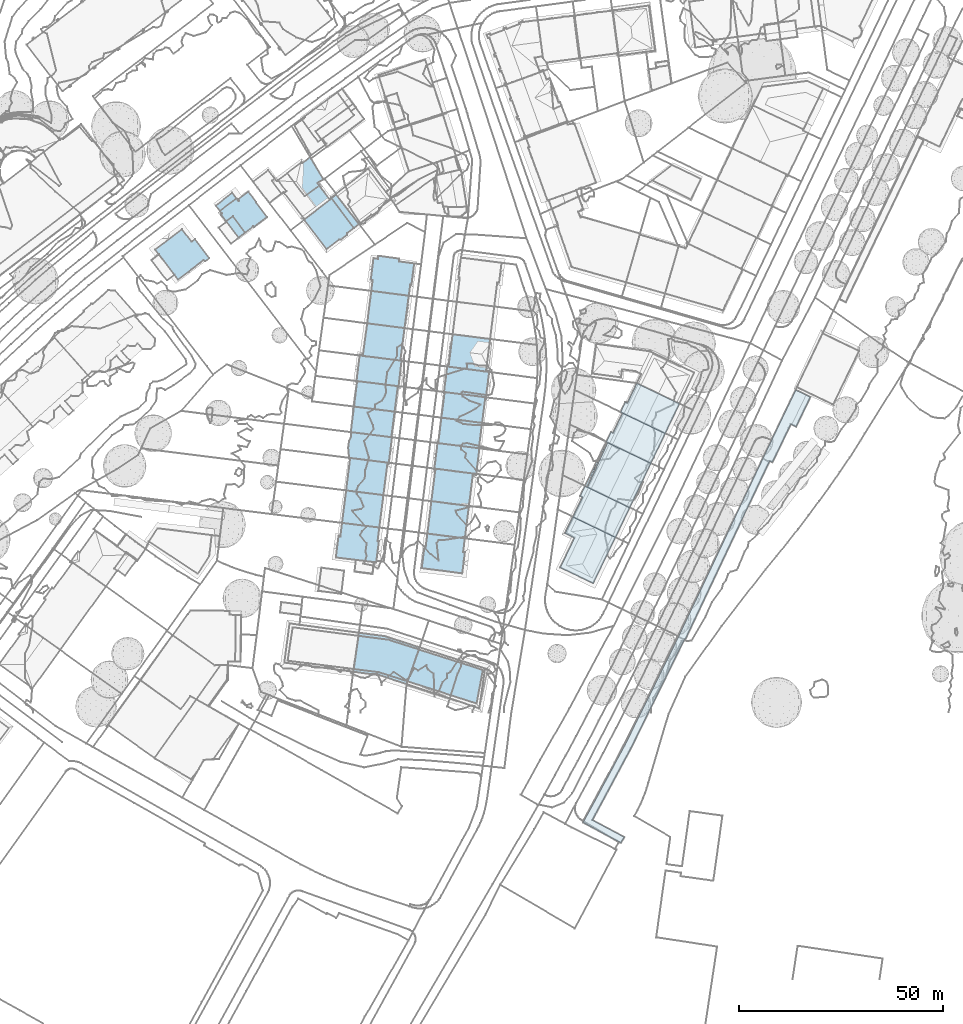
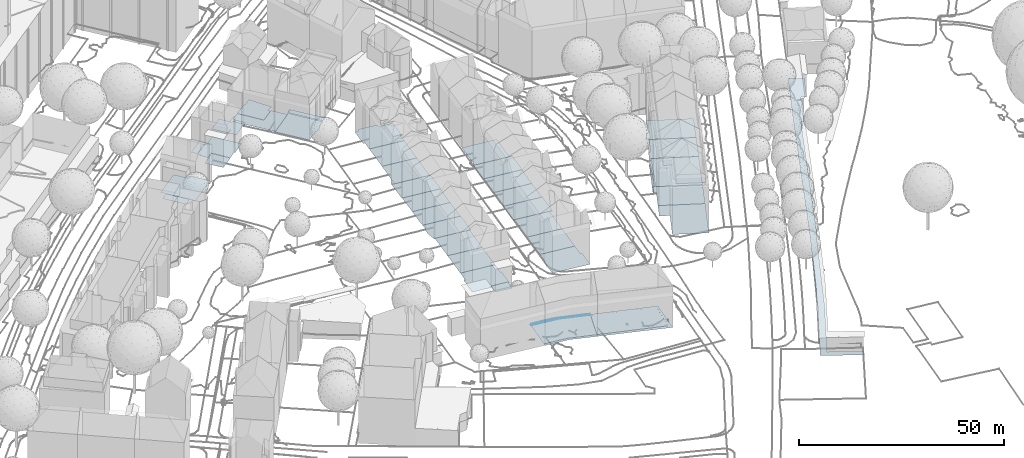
# Not in any storey, part 8 of 494: 32 footings.
"""IFC2X3 model written with IfcOpenShell, lengths in metres."""

from ifc_helpers import new_model, si_unit, frame, origin_with_axes, place, context, subcontext, project, faceted_brep, element, save


model = new_model("IFC2X3")

# Units and contexts
model_context = context("Model", 3, precision=1e-05, world=origin_with_axes())
body_context = subcontext(model_context, "Body", "Model", "MODEL_VIEW")
ifc_project = project(units=[si_unit("AREAUNIT", "SQUARE_METRE"), si_unit("LENGTHUNIT", "METRE")], contexts=[model_context])

# Footings
footing_1_placement = place(None, frame((495.5237320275, 54.2186160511, 497.0566), z_axis=(0.0, 0.0, 1.0), x_axis=(1.0, 0.0, 0.0)))
element("IfcFooting", 1, at=footing_1_placement, Name="Floor 0", PredefinedType="STRIP_FOOTING", context=body_context, shape_type="Brep", body=[
    faceted_brep([(0.5759999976, -0.2784000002, 0.508), (0.5370000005, -0.2588, 0.473), (2.2589999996, 3.4111000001, 0.44), (2.3440000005, 4.8662, 0.0001), (0.0, 0.0, 0.0), (5.2080000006, 10.8144000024, 0.0001), (5.5590000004, 10.6464000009, 0.309)], [[[0, 1, 2]], [[3, 1, 4]], [[2, 5, 6]], [[3, 5, 1]], [[5, 2, 1]]]),
])
footing_2_placement = place(None, frame((495.5237320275, 54.2186160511, 497.0566), z_axis=(0.0, 0.0, 1.0), x_axis=(1.0, 0.0, 0.0)))
element("IfcFooting", 2, at=footing_2_placement, Name="Floor 1", PredefinedType="STRIP_FOOTING", context=body_context, shape_type="Brep", body=[
    faceted_brep([(6.6919999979, 10.1025000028, 1.9099), (10.9839999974, 8.0459000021, 1.9099), (2.868999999, 4.6152000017, 1.9099), (15.4690000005, 5.8974000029, 1.9099), (10.2449999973, -4.9483000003, 1.9098), (5.748999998, -2.7763999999, 1.9099), (6.0159999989, 10.4266999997, 1.9099), (5.5590000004, 10.6464000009, 1.9099), (2.8189999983, 4.638600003, 1.9099), (16.1620000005, 5.5644000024, 1.9099), (2.2569999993, 3.3349000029, 1.9099), (1.5599999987, 1.8789000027, 1.9099), (0.5759999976, -0.2784000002, 1.9099), (10.9659999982, -5.2958999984, 1.9098)], [[[0, 1, 2]], [[1, 3, 4]], [[2, 1, 5]], [[6, 2, 7]], [[8, 7, 2]], [[0, 2, 6]], [[9, 4, 3]], [[5, 1, 4]], [[10, 2, 5]], [[5, 11, 10]], [[12, 11, 5]], [[9, 13, 4]]]),
])
footing_3_placement = place(None, frame((504.2517320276, 72.3416160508, 498.9665), z_axis=(0.0, 0.0, 1.0), x_axis=(1.0, 0.0, 0.0)))
element("IfcFooting", 3, at=footing_3_placement, Name="Floor 0", PredefinedType="STRIP_FOOTING", context=body_context, shape_type="Brep", body=[
    faceted_brep([(10.9389999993, -5.2372999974, 0.0), (5.7769999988, -2.7655999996, 0.0), (12.0669999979, -2.878899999, 0.0), (2.2540000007, 3.447300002, 0.0), (13.3420000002, -0.2138999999, 0.0), (9.2909999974, 4.5293000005, 0.0), (14.4289999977, 2.0596000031, 0.0), (3.3110000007, 5.6563000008, 0.0), (5.0020000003, 6.5898000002, 0.0), (4.3259999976, 6.9150000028, 0.0), (1.4849999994, -0.7108999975, 0.0), (1.6769999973, 2.2412, 0.0), (0.8079999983, -0.3866999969, 0.0), (0.0, 0.0, 0.0), (1.1909999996, 2.4736000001, 0.0), (4.0260000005, 7.0596000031, 0.0), (3.9849999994, 7.0654000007, 0.0)], [[[0, 1, 2]], [[2, 3, 4]], [[2, 1, 3]], [[4, 5, 6]], [[3, 5, 4]], [[7, 8, 5]], [[7, 9, 8]], [[1, 10, 11]], [[3, 1, 11]], [[12, 13, 11]], [[14, 11, 13]], [[5, 3, 7]], [[15, 9, 16]], [[9, 7, 16]], [[11, 10, 12]]]),
])
footing_4_placement = place(None, frame((489.4687320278, 34.2352160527, 498.9664), z_axis=(0.0, 0.0, 1.0), x_axis=(1.0, 0.0, 0.0)))
element("IfcFooting", 4, at=footing_4_placement, Name="Floor 0", PredefinedType="STRIP_FOOTING", context=body_context, shape_type="Brep", body=[
    faceted_brep([(8.311999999, 9.9100999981, 0.0), (12.7919999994, 7.7509000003, 0.0), (3.5139999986, 7.2840999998, 0.0), (3.3530000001, 12.3016999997, 0.0001), (13.5309999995, 7.3944999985, 0.0), (8.0909999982, -3.8643000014, 0.0), (0.0, 0.0, 0.0), (1.1679999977, 8.4237999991, 0.0001), (3.1030000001, 12.4228000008, 0.0001), (3.2719999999, 12.3407999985, 0.0001)], [[[0, 1, 2]], [[3, 0, 2]], [[4, 5, 1]], [[5, 6, 2]], [[7, 8, 9]], [[3, 7, 9]], [[7, 3, 2]], [[1, 5, 2]]]),
])
footing_5_placement = place(None, frame((500.7317320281, 65.0330160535, 498.9665), z_axis=(0.0, 0.0, 1.0), x_axis=(1.0, 0.0, 0.0)))
element("IfcFooting", 5, at=footing_5_placement, Name="Floor 0", PredefinedType="STRIP_FOOTING", context=body_context, shape_type="Brep", body=[
    faceted_brep([(10.2609999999, -4.9180000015, 0.0), (13.7829999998, 2.3944999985, 0.0), (10.9539999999, -5.25, 0.0), (9.2969999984, 4.5429999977, 0.0), (5.7969999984, -2.7783000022, 0.0), (1.6799999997, 2.1992000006, 0.0), (14.4579999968, 2.0713, 0.0), (3.2749999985, 5.5321999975, 0.0), (4.5700000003, 6.8057000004, 0.0), (0.8079999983, -0.3877000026, 0.0), (0.0, 0.0, 0.0), (1.175999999, 2.441399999, 0.0), (4.0119999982, 7.0722999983, 0.0)], [[[0, 1, 2]], [[3, 4, 5]], [[4, 3, 0]], [[2, 1, 6]], [[0, 3, 1]], [[7, 8, 3]], [[9, 10, 5]], [[11, 5, 10]], [[5, 7, 3]], [[12, 8, 7]], [[9, 5, 4]]]),
])
footing_6_placement = place(None, frame((492.5717320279, 46.6580160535, 498.9665), z_axis=(0.0, 0.0, 1.0), x_axis=(1.0, 0.0, 0.0)))
element("IfcFooting", 6, at=footing_6_placement, Name="Floor 0", PredefinedType="STRIP_FOOTING", context=body_context, shape_type="Brep", body=[
    faceted_brep([(8.7190000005, 4.7753999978, 0.0), (5.2339999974, -2.5243999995, -0.0001), (2.3319999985, 4.811499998, 0.0), (9.6889999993, -4.6719000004, -0.0001), (13.1979999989, 2.6122999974, -0.0001), (13.9179999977, 2.2646999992, -0.0001), (10.4279999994, -5.0283000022, -0.0001), (3.9690000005, 7.0692999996, 0.0), (0.2469999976, -0.1191000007, 0.0), (0.9690000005, 1.998999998, 0.0), (0.1689999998, -0.0820000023, 0.0), (0.0, 0.0, 0.0), (2.9519999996, 7.5605999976, 0.0), (1.7639999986, 5.0946999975, 0.0)], [[[0, 1, 2]], [[3, 4, 5]], [[5, 6, 3]], [[4, 3, 1]], [[0, 4, 1]], [[2, 7, 0]], [[8, 9, 1]], [[2, 1, 9]], [[10, 11, 9]], [[7, 2, 12]], [[12, 2, 13]], [[9, 8, 10]]]),
])
footing_7_placement = place(None, frame((211.8297320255, 101.9383160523, 526.7541), z_axis=(0.0, 0.0, 1.0), x_axis=(1.0, 0.0, 0.0)))
element("IfcFooting", 7, at=footing_7_placement, Name="Floor 3", PredefinedType="STRIP_FOOTING", context=body_context, shape_type="Brep", body=[
    faceted_brep([(335.3610000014, -24.1719000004, -27.9426), (338.9510000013, -25.9023999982, -27.9427), (334.2990000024, -32.5879000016, -27.9427), (335.4580000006, -33.1464999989, -27.9427), (334.1680000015, -32.5234999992, -27.9427), (328.9720000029, -41.5625, -27.9427), (333.6909999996, -33.5137000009, -27.9427), (332.5610000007, -35.8555000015, -27.9427), (327.2400000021, -41.0078000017, -27.9427), (329.6530000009, -41.8887000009, -27.9427), (308.313000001, -85.2412, -27.9427), (308.1209999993, -85.2069999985, -27.9427), (306.6070000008, -84.692400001, -27.9427), (324.995000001, -45.7617000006, -27.9427), (328.8660000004, -41.7870999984, -27.9427), (294.876000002, -112.1572000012, -27.9427), (294.9710000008, -108.2001999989, -27.9427), (294.4140000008, -113.0175999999, -27.9427), (292.4979999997, -135.1669999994, -27.9427), (285.512000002, -129.5995999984, -27.9427), (293.3480000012, -133.7763999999, -27.9427), (283.2259999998, -130.1728999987, -27.9427), (306.6060000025, -84.6942999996, -27.9427), (289.6669999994, -118.191399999, -27.9427), (286.1980000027, -128.3213, -27.9427), (289.1790000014, -119.0839999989, -27.9427), (293.3880000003, -111.3975000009, -27.9427), (285.9140000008, -128.8506000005, -27.9427), (287.0720000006, -123.0791000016, -27.9427), (286.7400000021, -123.691399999, -27.9427)], [[[0, 1, 2]], [[3, 2, 1]], [[2, 4, 0]], [[5, 4, 6]], [[5, 6, 7]], [[5, 8, 0]], [[4, 5, 0]], [[5, 7, 9]], [[10, 11, 12]], [[10, 12, 13]], [[14, 13, 5]], [[8, 5, 13]], [[10, 13, 14]], [[15, 16, 11]], [[16, 15, 17]], [[18, 19, 20]], [[21, 19, 18]], [[11, 22, 12]], [[11, 16, 22]], [[23, 24, 25]], [[26, 24, 23]], [[26, 16, 17]], [[27, 28, 24]], [[19, 28, 27]], [[19, 29, 28]], [[21, 29, 19]], [[28, 25, 24]], [[26, 17, 24]]]),
])
footing_8_placement = place(None, frame((389.3167320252, 109.6180160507, 499.0156), z_axis=(0.0, 0.0, 1.0), x_axis=(1.0, 0.0, 0.0)))
element("IfcFooting", 8, at=footing_8_placement, Name="Floor 0", PredefinedType="STRIP_FOOTING", context=body_context, shape_type="Brep", body=[
    faceted_brep([(6.5310000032, -4.7753999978, -0.032), (5.6060000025, -3.5771999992, -0.032), (9.2690000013, -2.673899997, -0.032), (9.8150000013, 4.5029000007, -0.032), (10.6590000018, -1.6083999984, -0.032), (13.0810000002, -0.3320999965, -0.032), (12.8000000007, 0.0342000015, -0.032), (14.1560000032, 0.4814000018, -0.032), (10.6339999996, 5.1308000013, -0.032), (3.2840000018, 4.3828000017, -0.032), (4.1740000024, 5.0644000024, -0.032), (1.6440000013, 1.5986000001, -0.032), (0.9100000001, 2.5615000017, -0.032), (7.443, 7.5722000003, -0.032), (1.807, 1.3857000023, 0.0), (5.6060000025, -3.5771999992, 0.0), (0.0, 0.0, 0.0), (3.7730000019, -4.9833999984, 0.0)], [[[0, 1, 2]], [[2, 3, 4]], [[5, 6, 7]], [[4, 3, 6]], [[6, 8, 7]], [[9, 2, 1]], [[2, 9, 10]], [[11, 12, 9]], [[10, 3, 2]], [[8, 6, 3]], [[10, 13, 3]], [[1, 11, 9]], [[14, 15, 16]], [[17, 16, 15]]]),
])
footing_9_placement = place(None, frame((405.0787320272, 122.9930160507, 499.2066), z_axis=(0.0, 0.0, 1.0), x_axis=(1.0, 0.0, 0.0)))
element("IfcFooting", 9, at=footing_9_placement, Name="Floor 0", PredefinedType="STRIP_FOOTING", context=body_context, shape_type="Brep", body=[
    faceted_brep([(0.9959999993, -1.2978999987, -0.126), (5.0779999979, 1.7256000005, -0.126), (1.4620000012, -1.9042999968, -0.126), (5.563000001, 1.0937000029, -0.126), (1.5280000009, -1.9912, -0.126), (4.1849999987, -2.6318999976, -0.126), (2.5229999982, -3.8632999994, -0.126), (1.2509999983, -2.2060999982, -0.126), (7.1750000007, -6.6679999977, -0.126), (9.1609999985, -5.1269999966, -0.126), (9.3090000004, -5.3173999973, -0.126), (12.5799999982, -2.8007999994, -0.126), (9.8220000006, 0.754900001, -0.126), (5.6979999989, 1.1972000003, -0.126), (5.4679999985, 1.4980000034, -0.126), (7.9809999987, 3.4267000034, -0.126), (9.9129999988, 0.8252000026, -0.126), (5.0779999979, 1.7256000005, 0.0), (0.0, 0.0, 0.0), (4.0289999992, 3.0927000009, 0.0), (0.9959999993, -1.2978999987, 0.0), (4.1849999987, -2.6318999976, -0.206), (2.625, -3.9960999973, -0.206), (2.5229999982, -3.8632999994, -0.206), (7.1750000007, -6.6679999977, -0.206), (3.7120000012, -9.3544999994, -0.206), (0.7219999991, -5.4570999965, -0.206)], [[[0, 1, 2]], [[3, 4, 2]], [[2, 1, 3]], [[3, 5, 4]], [[6, 7, 4]], [[4, 5, 6]], [[8, 5, 9]], [[10, 9, 11]], [[5, 12, 9]], [[5, 3, 13]], [[14, 15, 13]], [[15, 12, 13]], [[15, 16, 12]], [[11, 9, 12]], [[12, 5, 13]], [[17, 18, 19]], [[18, 17, 20]], [[21, 22, 23]], [[21, 24, 22]], [[25, 26, 22]], [[22, 24, 25]]]),
])
footing_10_placement = place(None, frame((434.497732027, 36.682416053, 499.5704), z_axis=(0.0, 0.0, 1.0), x_axis=(1.0, 0.0, 0.0)))
element("IfcFooting", 10, at=footing_10_placement, Name="Floor 0", PredefinedType="STRIP_FOOTING", context=body_context, shape_type="Brep", body=[
    faceted_brep([(5.4829999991, 7.9668000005, 0.0001), (1.1019999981, 5.1532999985, 0.0001), (1.5179999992, 8.4609999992, 0.0001), (0.3359999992, 2.6660000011, 0.0), (4.7949999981, -0.5956999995, 0.0), (0.0, 0.0, 0.0), (0.6559999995, 5.2089999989, 0.0001), (10.2329999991, 4.0313000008, 0.0), (10.2470000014, 4.1396999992, 0.0), (10.5500000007, 3.9912, 0.0), (10.2080000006, 1.2989000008, 0.0), (9.8889999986, -1.2109000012, 0.0), (10.6510000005, 7.3222999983, 0.0), (9.3139999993, -1.1552000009, 0.454), (4.5639999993, -3.4218000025, 0.454), (4.9129999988, -0.6093000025, 0.454), (9.5789999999, -1.1737999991, 0.454), (8.9620000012, -3.9814000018, 0.454), (9.5769999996, -1.1884000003, 0.454)], [[[0, 1, 2]], [[3, 4, 5]], [[1, 4, 3]], [[3, 6, 1]], [[0, 7, 1]], [[0, 8, 7]], [[4, 1, 7]], [[9, 10, 7]], [[11, 4, 10]], [[7, 10, 4]], [[0, 12, 8]], [[13, 14, 15]], [[15, 16, 13]], [[13, 17, 14]], [[13, 16, 18]]]),
])
footing_11_placement = place(None, frame((437.0167320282, 53.1053160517, 499.5705), z_axis=(0.0, 0.0, 1.0), x_axis=(1.0, 0.0, 0.0)))
element("IfcFooting", 11, at=footing_11_placement, Name="Floor 0", PredefinedType="STRIP_FOOTING", context=body_context, shape_type="Brep", body=[
    faceted_brep([(0.0, 0.0, 0.0), (0.2280000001, 1.8125, 0.0), (1.7649999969, -0.2216999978, 0.0), (0.5899999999, 4.6933000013, 0.0), (4.0639999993, -0.5097999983, 0.0), (5.1639999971, 7.4354999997, 0.0), (9.6719999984, 3.0175999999, 0.0), (9.1429999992, -1.1475000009, 0.0), (9.1739999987, 6.9345000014, 0.0), (10.1229999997, 6.5644000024, 0.0), (0.743999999, 7.9882999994, 0.0), (1.8079999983, 7.8553999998, 0.0), (0.9769999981, 7.7666000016, 0.0), (0.7619999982, 7.7928999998, 0.0), (4.6549999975, 7.4990000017, 0.0), (10.4389999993, 6.5243999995, 0.0), (10.4709999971, 6.7723999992, 0.0)], [[[0, 1, 2]], [[1, 3, 4]], [[4, 2, 1]], [[5, 6, 3]], [[6, 7, 4]], [[6, 4, 3]], [[8, 9, 6]], [[10, 11, 12]], [[12, 13, 10]], [[14, 3, 11]], [[15, 9, 16]], [[14, 5, 3]], [[8, 6, 5]], [[16, 9, 8]], [[3, 12, 11]]]),
])
footing_12_placement = place(None, frame((439.5667320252, 79.9246160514, 499.5705), z_axis=(0.0, 0.0, 1.0), x_axis=(1.0, 0.0, 0.0)))
element("IfcFooting", 12, at=footing_12_placement, Name="Floor 0", PredefinedType="STRIP_FOOTING", context=body_context, shape_type="Brep", body=[
    faceted_brep([(10.3030000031, -1.2811999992, 0.0), (10.2280000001, -1.2714999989, 0.0), (10.6560000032, 1.7294999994, 0.0), (10.7440000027, 2.4794999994, 0.0), (0.375, 3.0947000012, 0.0), (9.5560000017, -1.1875, 0.0), (0.4790000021, 3.9570000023, 0.0), (6.074000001, 5.6016000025, 0.0), (11.0370000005, 4.9805000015, 0.0), (9.949000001, 5.1162, 0.0), (5.2080000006, -0.6464999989, 0.0), (0.5350000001, -0.0654000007, 0.0), (0.0, 0.0, 0.0), (0.7589999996, 6.2675999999, 0.0), (2.3210000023, 6.0713, 0.0)], [[[0, 1, 2]], [[3, 2, 4]], [[2, 1, 5]], [[3, 6, 7]], [[8, 3, 9]], [[9, 3, 7]], [[5, 10, 2]], [[11, 4, 10]], [[12, 4, 11]], [[4, 6, 3]], [[13, 14, 6]], [[14, 7, 6]], [[4, 2, 10]]]),
])
footing_13_placement = place(None, frame((440.3257320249, 86.1922160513, 499.5705), z_axis=(0.0, 0.0, 1.0), x_axis=(1.0, 0.0, 0.0)))
element("IfcFooting", 13, at=footing_13_placement, Name="Floor 0", PredefinedType="STRIP_FOOTING", context=body_context, shape_type="Brep", body=[
    faceted_brep([(0.0, 0.0, 0.0), (0.814000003, 0.1484000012, 0.0), (1.5620000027, -0.1963, 0.0), (0.8420000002, 0.3535000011, 0.0), (0.0300000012, 0.2432000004, 0.0), (5.3150000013, -0.6659999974, 0.0), (10.3030000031, -1.0713, 0.0), (10.2780000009, -1.2870999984, 0.0), (10.006000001, -1.0321999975, 0.0), (6.4160000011, 7.2919999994, 0.0), (1.8550000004, 7.876000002, 0.0), (11.0130000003, 6.7030999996, 0.0), (10.7250000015, 4.4932000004, 0.0)], [[[0, 1, 2]], [[3, 2, 1]], [[1, 0, 4]], [[2, 3, 5]], [[6, 7, 8]], [[7, 5, 8]], [[9, 5, 3]], [[10, 9, 3]], [[9, 11, 12]], [[12, 8, 9]], [[5, 9, 8]]]),
])
footing_14_placement = place(None, frame((442.1807320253, 94.0682160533, 499.5705), z_axis=(0.0, 0.0, 1.0), x_axis=(1.0, 0.0, 0.0)))
element("IfcFooting", 14, at=footing_14_placement, Name="Floor 0", PredefinedType="STRIP_FOOTING", context=body_context, shape_type="Brep", body=[
    faceted_brep([(4.5610000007, -0.5840000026, 0.0), (10.1900000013, 6.7645999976, 0.0), (9.1579999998, -1.1729000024, 0.0), (0.0, 0.0, 0.0), (0.8680000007, 6.8993999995, 0.0), (0.9990000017, 7.9422999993, 0.0), (5.6590000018, 7.3456999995, 0.0)], [[[0, 1, 2]], [[3, 4, 0]], [[5, 6, 4]], [[6, 1, 0]], [[0, 4, 6]]]),
])
footing_15_placement = place(None, frame((438.9377320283, 73.6600160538, 499.5705), z_axis=(0.0, 0.0, 1.0), x_axis=(1.0, 0.0, 0.0)))
element("IfcFooting", 15, at=footing_15_placement, Name="Floor 0", PredefinedType="STRIP_FOOTING", context=body_context, shape_type="Brep", body=[
    faceted_brep([(10.932, 4.9833999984, 0.0), (10.9189999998, 4.8680999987, 0.0), (10.856999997, 4.9930999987, 0.0), (10.9019999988, 4.7245999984, 0.0), (10.7329999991, 4.7460999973, 0.0), (10.1849999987, 5.0770999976, 0.0), (0.7529999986, 5.9969999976, 0.0), (1.1549999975, 6.2001999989, 0.0), (5.8369999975, 5.6180999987, 0.0), (0.6289999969, 6.2645999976, 0.0), (0.6030000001, 6.0155999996, 0.0), (10.5179999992, 3.0585999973, 0.0), (0.4659999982, 3.7118999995, 0.0), (10.2869999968, 1.2509000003, 0.0), (9.9670000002, -1.255900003, 0.0), (9.3189999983, -1.1739000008, 0.0), (4.9719999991, -0.6270000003, 0.0), (0.186999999, 1.4891999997, 0.0), (0.2919999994, -0.0381000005, 0.0), (0.0, 0.0, 0.0)], [[[0, 1, 2]], [[3, 4, 1]], [[1, 5, 2]], [[1, 4, 5]], [[6, 7, 8]], [[5, 4, 8]], [[9, 7, 6]], [[9, 6, 10]], [[4, 11, 8]], [[12, 11, 13]], [[13, 14, 15]], [[16, 17, 13]], [[13, 15, 16]], [[17, 16, 18]], [[17, 12, 13]], [[18, 19, 17]], [[11, 12, 6]], [[8, 11, 6]]]),
])
footing_16_placement = place(None, frame((438.2527320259, 67.3914160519, 499.5705), z_axis=(0.0, 0.0, 1.0), x_axis=(1.0, 0.0, 0.0)))
element("IfcFooting", 16, at=footing_16_placement, Name="Floor 0", PredefinedType="STRIP_FOOTING", context=body_context, shape_type="Brep", body=[
    faceted_brep([(10.6520000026, 5.0126999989, 0.0), (10.3590000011, 2.7109000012, 0.0), (10.0040000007, 5.0947000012, 0.0), (10.1220000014, 0.8544999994, 0.0), (5.6570000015, 5.6416000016, 0.0), (4.7919999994, -0.6024999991, 0.0), (0.4680000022, 4.5390999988, 0.0), (0.9770000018, 6.2305000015, 0.0), (0.6850000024, 6.2686000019, 0.0), (0.0410000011, 1.1455000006, 0.0), (10.0040000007, -1.2588, 0.0), (9.693, -1.2197000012, 0.0), (9.8859999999, -0.9921999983, 0.0), (10.0350000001, -1.0106999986, 0.0), (9.1400000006, -1.1493999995, 0.0), (0.0, 0.0, 0.0)], [[[0, 1, 2]], [[1, 3, 4]], [[4, 2, 1]], [[4, 5, 6]], [[7, 6, 8]], [[6, 7, 4]], [[5, 9, 6]], [[4, 3, 5]], [[10, 11, 12]], [[12, 13, 10]], [[12, 11, 14]], [[14, 5, 3]], [[15, 9, 5]], [[12, 14, 3]]]),
])
footing_17_placement = place(None, frame((443.0627320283, 104.7566160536, 499.5705), z_axis=(0.0, 0.0, 1.0), x_axis=(1.0, 0.0, 0.0)))
element("IfcFooting", 17, at=footing_17_placement, Name="Floor 0", PredefinedType="STRIP_FOOTING", context=body_context, shape_type="Brep", body=[
    faceted_brep([(0.3299999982, 2.6259999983, 0.0), (0.6629999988, 5.2744999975, 0.0), (1.743999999, 5.1367999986, 0.0), (6.9019999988, 4.4824999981, 0.0), (0.4549999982, -0.0566000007, 0.0), (0.0, 0.0, 0.0), (4.7769999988, -3.3427000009, 0.0), (0.4339999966, -0.2275000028, 0.0), (0.2919999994, -1.3553999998, 0.0), (0.1169999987, -2.746100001, 0.0), (1.8369999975, 5.8720999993, 0.0), (6.987999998, 5.1581999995, 0.0), (7.9679999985, 4.3456999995, 0.0), (10.2789999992, 1.178799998, 0.0), (10.6379999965, 4.0068999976, 0.0), (10.3859999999, 2.0244999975, 0.0), (9.498999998, 4.1523999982, 0.0), (9.6659999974, -1.1816000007, 0.0), (9.3079999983, -3.9238000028, 0.0), (9.9739999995, -1.2206999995, 0.0)], [[[0, 1, 2]], [[0, 2, 3]], [[4, 5, 0]], [[4, 3, 6]], [[7, 6, 8]], [[9, 8, 6]], [[4, 6, 7]], [[4, 0, 3]], [[10, 11, 2]], [[3, 12, 13]], [[3, 2, 11]], [[14, 15, 16]], [[12, 16, 15]], [[15, 13, 12]], [[6, 17, 18]], [[19, 17, 13]], [[13, 17, 3]], [[6, 3, 17]]]),
])
footing_18_placement = place(None, frame((437.5277320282, 63.6443160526, 499.5705), z_axis=(0.0, 0.0, 1.0), x_axis=(1.0, 0.0, 0.0)))
element("IfcFooting", 18, at=footing_18_placement, Name="Floor 0", PredefinedType="STRIP_FOOTING", context=body_context, shape_type="Brep", body=[
    faceted_brep([(0.1939999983, 1.5361999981, 0.0), (0.6849999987, 2.6347999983, 0.0), (5.5169999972, 3.1446000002, 0.0), (0.1030000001, 0.8194000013, 0.0), (0.0, 0.0, 0.0), (4.6529999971, -3.1035000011, 0.0), (4.1439999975, -3.0399999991, 0.0), (0.2329999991, -2.5507000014, 0.0), (0.7249999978, 3.7470999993, 0.0), (9.8649999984, 2.5976999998, 0.0), (10.5479999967, 1.0157000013, 0.0), (10.7289999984, 2.4882999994, 0.0), (10.4179999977, 2.5273999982, 0.0), (10.1589999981, -2.1484000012, 0.0), (9.9599999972, -3.7666000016, 0.0)], [[[0, 1, 2]], [[2, 3, 0]], [[4, 5, 6]], [[7, 4, 6]], [[4, 3, 5]], [[8, 2, 1]], [[9, 10, 2]], [[11, 10, 12]], [[10, 9, 12]], [[5, 13, 14]], [[13, 5, 10]], [[2, 10, 5]], [[5, 3, 2]]]),
])
footing_19_placement = place(None, frame((436.0157320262, 45.1434160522, 499.5705), z_axis=(0.0, 0.0, 1.0), x_axis=(1.0, 0.0, 0.0)))
element("IfcFooting", 19, at=footing_19_placement, Name="Floor 0", PredefinedType="STRIP_FOOTING", context=body_context, shape_type="Brep", body=[
    faceted_brep([(9.8909999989, 4.8260999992, 0.0), (5.0650000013, 7.4510999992, 0.0), (10.1440000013, 6.8143999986, 0.0), (9.5500000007, 2.1444999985, -0.0001), (0.3949999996, 3.1444999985, 0.0), (2.7659999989, 7.7402000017, 0.0), (0.7679999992, 6.1053999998, 0.0), (1.001000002, 7.9618999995, 0.0), (9.1330000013, -1.1387000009, -0.0001), (3.9649999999, -0.4941999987, 0.0), (0.0, 0.0, 0.0)], [[[0, 1, 2]], [[1, 3, 4]], [[5, 6, 7]], [[5, 1, 6]], [[4, 6, 1]], [[0, 3, 1]], [[8, 9, 3]], [[4, 9, 10]], [[4, 3, 9]]]),
])
footing_20_placement = place(None, frame((460.3767320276, 70.9432160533, 499.4055), z_axis=(0.0, 0.0, 1.0), x_axis=(1.0, 0.0, 0.0)))
element("IfcFooting", 20, at=footing_20_placement, Name="Floor 0", PredefinedType="STRIP_FOOTING", context=body_context, shape_type="Brep", body=[
    faceted_brep([(5.6710000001, 5.6532999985, 0.0), (10.112999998, 5.0868999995, 0.0), (10.7339999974, 4.7557999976, 0.0), (10.9140000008, 4.9842999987, 0.0), (1.2829999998, 6.2137999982, 0.0), (0.7630000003, 6.0273000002, 0.0), (0.7709999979, 6.2782999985, 0.0), (0.6499999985, 6.0419999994, 0.0), (0.6359999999, 6.2967999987, 0.0), (0.6050000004, 6.0478000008, 0.0), (10.9010000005, 4.8817999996, 0.0), (10.8829999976, 4.7362999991, 0.0), (0.2740000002, 2.1669999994, 0.0), (9.9679999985, -1.2831999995, 0.0), (9.3729999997, -1.2061000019, 0.0), (10.2229999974, 0.7294999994, 0.0), (4.932, -0.6358000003, 0.0), (0.0, 0.0, 0.0)], [[[0, 1, 2]], [[3, 2, 1]], [[4, 0, 5]], [[4, 5, 6]], [[6, 7, 8]], [[9, 8, 7]], [[6, 5, 7]], [[2, 3, 10]], [[2, 10, 11]], [[12, 0, 2]], [[13, 14, 15]], [[15, 16, 2]], [[16, 15, 14]], [[12, 5, 0]], [[17, 12, 16]], [[16, 12, 2]]]),
])
footing_21_placement = place(None, frame((456.9307320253, 42.5213160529, 499.4054), z_axis=(0.0, 0.0, 1.0), x_axis=(1.0, 0.0, 0.0)))
element("IfcFooting", 21, at=footing_21_placement, Name="Floor 0", PredefinedType="STRIP_FOOTING", context=body_context, shape_type="Brep", body=[
    faceted_brep([(0.3390000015, 2.7157999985, 0.0), (8.7890000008, -1.1162, 0.0), (0.0, 0.0, 0.0), (10.1860000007, 6.7793000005, 0.0), (9.1860000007, -1.1669999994, 0.0), (0.9930000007, 7.9501999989, 0.0001), (5.9710000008, 7.316399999, 0.0), (8.0789999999, 7.0487999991, 0.0)], [[[0, 1, 2]], [[1, 3, 4]], [[5, 6, 0]], [[3, 1, 7]], [[6, 7, 1]], [[0, 6, 1]]]),
])
footing_22_placement = place(None, frame((461.8007320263, 83.4783160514, 499.4055), z_axis=(0.0, 0.0, 1.0), x_axis=(1.0, 0.0, 0.0)))
element("IfcFooting", 22, at=footing_22_placement, Name="Floor 0", PredefinedType="STRIP_FOOTING", context=body_context, shape_type="Brep", body=[
    faceted_brep([(5.9039999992, 7.3311000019, 0.0), (1.0560000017, 5.8027999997, 0.0), (4.6160000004, 7.4951000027, 0.0), (4.9730000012, -0.6435000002, 0.0), (0.4750000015, 1.2061000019, 0.0), (1.3229999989, 7.9131000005, 0.0), (0.2290000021, 0.2237000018, 0.0), (0.0, 0.0, 0.0), (0.0320000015, 0.2481000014, 0.0), (9.5230000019, -0.9912, 0.0), (10.504999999, 6.7481000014, 0.0), (10.3080000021, -1.0936999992, 0.0), (10.2780000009, -1.3319999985, 0.0), (9.0280000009, -1.1699000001, 0.0), (0.3489999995, 0.2071000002, 0.0), (0.7069999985, -0.0918000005, 0.0)], [[[0, 1, 2]], [[3, 4, 0]], [[2, 1, 5]], [[6, 7, 8]], [[4, 1, 0]], [[9, 0, 10]], [[11, 12, 9]], [[0, 9, 3]], [[13, 9, 12]], [[13, 3, 9]], [[7, 6, 14]], [[15, 7, 14]], [[4, 15, 14]], [[15, 4, 3]]]),
])
footing_23_placement = place(None, frame((457.923732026, 50.4715160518, 499.4055), z_axis=(0.0, 0.0, 1.0), x_axis=(1.0, 0.0, 0.0)))
element("IfcFooting", 23, at=footing_23_placement, Name="Floor 0", PredefinedType="STRIP_FOOTING", context=body_context, shape_type="Brep", body=[
    faceted_brep([(7.0859999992, -0.9013999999, -0.0001), (9.3390000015, -0.0108000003, -0.0001), (9.2679999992, -0.5762000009, -0.0001), (9.193, -1.1699000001, -0.0001), (4.9780000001, -0.6338, -0.0001), (10.0240000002, 5.4248000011, 0.0), (5.9140000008, 7.3291000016, 0.0), (0.0, 0.0, 0.0), (0.9609999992, 7.7012000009, 0.0), (10.0940000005, 5.9834000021, 0.0), (9.3990000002, 6.8828000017, 0.0), (6.3570000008, 7.2723999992, 0.0), (0.6830000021, 7.7362999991, 0.0), (0.7149999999, 7.9941000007, 0.0), (1.9719999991, 7.8330000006, 0.0), (10.1630000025, 6.5322000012, 0.0), (10.9869999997, 6.6797000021, 0.0), (10.9560000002, 6.4316000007, 0.0), (9.5350000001, 6.8662, 0.0)], [[[0, 1, 2]], [[0, 2, 3]], [[4, 1, 0]], [[5, 4, 6]], [[4, 7, 8]], [[1, 4, 5]], [[9, 5, 10]], [[4, 8, 6]], [[6, 11, 5]], [[8, 12, 13]], [[10, 5, 11]], [[8, 14, 6]], [[14, 8, 13]], [[15, 16, 17]], [[18, 16, 15]], [[9, 18, 15]], [[18, 9, 10]]]),
])
footing_24_placement = place(None, frame((461.0127320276, 77.240016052, 499.4055), z_axis=(0.0, 0.0, 1.0), x_axis=(1.0, 0.0, 0.0)))
element("IfcFooting", 24, at=footing_24_placement, Name="Floor 0", PredefinedType="STRIP_FOOTING", context=body_context, shape_type="Brep", body=[
    faceted_brep([(5.0350000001, -0.6435000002, 0.0), (10.4829999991, 0.3027999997, 0.0), (9.4769999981, -1.2098999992, 0.0), (10.2780000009, -1.3125, 0.0), (0.3979999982, 3.1231000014, 0.0), (10.6799999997, 1.8603999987, 0.0), (10.7980000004, 2.7872000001, 0.0), (9.8159999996, 5.0683999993, 0.0), (11.0659999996, 4.9052999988, 0.0), (5.7609999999, 5.5947999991, 0.0), (0.1959999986, 1.5372000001, 0.0), (0.1349999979, -0.0185000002, 0.0), (0.6469999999, -0.0830000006, 0.0), (0.0, 0.0, 0.0), (0.6829999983, 5.3984999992, 0.0), (1.4949999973, 6.1464999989, 0.0), (0.7879999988, 6.2382999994, 0.0)], [[[0, 1, 2]], [[1, 3, 2]], [[1, 4, 5]], [[5, 4, 6]], [[7, 8, 6]], [[7, 6, 9]], [[10, 1, 0]], [[11, 10, 12]], [[1, 10, 4]], [[11, 13, 10]], [[9, 14, 15]], [[16, 15, 14]], [[9, 6, 14]], [[14, 6, 4]], [[0, 12, 10]]]),
])
footing_25_placement = place(None, frame((458.6387320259, 58.4656160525, 499.4055), z_axis=(0.0, 0.0, 1.0), x_axis=(1.0, 0.0, 0.0)))
element("IfcFooting", 25, at=footing_25_placement, Name="Floor 0", PredefinedType="STRIP_FOOTING", context=body_context, shape_type="Brep", body=[
    faceted_brep([(0.7910000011, 6.253899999, 0.0), (1.5600000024, 6.1572999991, 0.0), (0.568, 4.4882999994, 0.0), (5.9360000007, 5.5986999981, 0.0), (0.4039999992, 3.1884999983, 0.0), (1.2569999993, -0.1611000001, 0.0), (0.0, 0.0, 0.0), (0.1970000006, 1.5606000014, 0.0), (5.199000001, -0.6649999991, 0.0), (10.6610000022, 1.7969000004, 0.0), (10.8269999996, 3.1270000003, 0.0), (10.4959999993, 0.4765999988, 0.0), (5.6420000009, -0.7217000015, 0.0), (8.6840000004, -1.1112999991, 0.0), (8.8200000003, -1.1279000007, 0.0), (10.2719999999, -1.3134999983, 0.0), (11.0549999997, 4.9483000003, 0.0)], [[[0, 1, 2]], [[2, 1, 3]], [[3, 4, 2]], [[5, 6, 7]], [[5, 7, 8]], [[4, 8, 7]], [[3, 9, 4]], [[9, 8, 4]], [[3, 10, 9]], [[9, 11, 12]], [[9, 12, 8]], [[12, 11, 13]], [[14, 11, 15]], [[13, 11, 14]], [[3, 16, 10]]]),
])
footing_26_placement = place(None, frame((459.429732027, 64.7195160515, 499.4055), z_axis=(0.0, 0.0, 1.0), x_axis=(1.0, 0.0, 0.0)))
element("IfcFooting", 26, at=footing_26_placement, Name="Floor 0", PredefinedType="STRIP_FOOTING", context=body_context, shape_type="Brep", body=[
    faceted_brep([(5.1449999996, -0.6552000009, 0.0), (0.7659999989, -0.0965999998, 0.0), (0.6579999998, 3.9317000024, 0.0), (0.0, 0.0, 0.0), (0.1900000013, 0.2285000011, 0.0), (10.2659999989, -1.3055999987, 0.0), (10.1579999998, -1.0399999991, 0.0), (10.307, -1.0585999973, 0.0), (0.0309999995, 0.2481000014, 0.0), (5.8790000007, 5.5879000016, 0.0), (0.9470000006, 6.2237000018, 0.0), (10.7259999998, 3.4453000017, 0.0), (10.3200000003, 5.0175999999, 0.0), (10.9149999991, 4.9405000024, 0.0)], [[[0, 1, 2]], [[1, 3, 4]], [[5, 0, 6]], [[6, 7, 5]], [[8, 4, 3]], [[6, 0, 2]], [[9, 2, 10]], [[6, 9, 11]], [[12, 13, 11]], [[11, 9, 12]], [[9, 6, 2]], [[1, 4, 2]]]),
])
footing_27_placement = place(None, frame((455.554732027, 34.0604160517, 499.4054), z_axis=(0.0, 0.0, 1.0), x_axis=(1.0, 0.0, 0.0)))
element("IfcFooting", 27, at=footing_27_placement, Name="Floor 0", PredefinedType="STRIP_FOOTING", context=body_context, shape_type="Brep", body=[
    faceted_brep([(4.9609999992, -0.6425999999, 0.0), (10.2609999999, 1.3885999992, 0.0), (10.245000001, 1.258700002, 0.0), (9.9230000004, -1.2841999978, 0.0), (10.1429999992, 3.9598999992, 0.0), (10.3079999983, 1.7509000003, 0.0), (10.5799999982, 3.9042000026, 0.0), (10.1829999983, 7.3427000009, 0.0), (10.561999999, 7.2928999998, 0.0), (10.3429999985, 5.5527000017, 0.0), (6.4129999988, 7.821200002, 0.0), (0.3530000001, 2.7949000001, 0.0), (0.2729999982, 2.1611000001, 0.0), (0.0, 0.0, 0.0), (0.9670000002, 5.1806000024, 0.0), (1.3759999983, 8.4598999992, 0.0), (0.6589999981, 5.2197000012, 0.0)], [[[0, 1, 2]], [[2, 3, 0]], [[0, 4, 5]], [[5, 1, 0]], [[4, 6, 5]], [[7, 8, 9]], [[7, 9, 10]], [[9, 4, 10]], [[11, 0, 12]], [[12, 0, 13]], [[14, 0, 11]], [[10, 0, 14]], [[14, 15, 10]], [[11, 16, 14]], [[10, 4, 0]]]),
])
footing_28_placement = place(None, frame((440.0417320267, 17.4568160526, 499.2944), z_axis=(0.0, 0.0, 1.0), x_axis=(1.0, 0.0, 0.0)))
element("IfcFooting", 28, at=footing_28_placement, Name="Floor 0", PredefinedType="STRIP_FOOTING", context=body_context, shape_type="Brep", body=[
    faceted_brep([(0.0, 0.0, 0.0), (0.1090000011, 0.7529999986, 0.0), (7.3229999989, -0.9530999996, 0.0), (6.4149999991, -0.0672999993, 0.0), (14.9789999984, -2.8271000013, 0.0), (14.7950000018, -3.3495999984, 0.0), (7.4470000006, -0.3993999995, 0.0)], [[[0, 1, 2]], [[3, 2, 1]], [[4, 5, 6]], [[3, 6, 2]], [[6, 5, 2]]]),
])
footing_29_placement = place(None, frame((440.0417320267, 17.4568160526, 499.2944), z_axis=(0.0, 0.0, 1.0), x_axis=(1.0, 0.0, 0.0)))
element("IfcFooting", 29, at=footing_29_placement, Name="Floor 1", PredefinedType="STRIP_FOOTING", context=body_context, shape_type="Brep", body=[
    faceted_brep([(-0.5419999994, -3.8104999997, -0.111), (-0.2149999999, -1.4891999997, -0.1109), (6.4149999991, -0.0672999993, -0.111), (-1.1499999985, -8.128899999, -0.111), (4.9560000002, -8.8964000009, -0.111), (0.1160000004, 0.7520000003, -0.1109), (14.9800000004, -2.8271000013, -0.111), (13.4539999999, -7.1367000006, -0.111), (12.0300000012, -11.1629999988, -0.111), (4.7989999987, -9.6064000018, -0.14), (-1.2459999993, -8.8037, -0.14), (-1.1499999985, -8.128899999, -0.14), (4.9560000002, -8.8964000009, -0.14), (5.2930000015, -9.6708999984, -0.14), (12.0300000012, -11.1629999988, -0.14), (11.7839999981, -11.8583999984, -0.14)], [[[0, 1, 2]], [[3, 0, 4]], [[1, 5, 2]], [[2, 6, 7]], [[4, 0, 2]], [[8, 4, 7]], [[7, 4, 2]], [[9, 10, 11]], [[11, 12, 13]], [[14, 15, 13]], [[13, 12, 14]], [[9, 11, 13]]]),
])
footing_30_placement = place(None, frame((451.8257320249, 5.5984160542, 499.1684), z_axis=(0.0, 0.0, 1.0), x_axis=(1.0, 0.0, 0.0)))
element("IfcFooting", 30, at=footing_30_placement, Name="Floor 0", PredefinedType="STRIP_FOOTING", context=body_context, shape_type="Brep", body=[
    faceted_brep([(17.8280000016, -5.9004000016, 0.0), (0.0, 0.0, 0.0), (17.1790000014, -4.7314000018, 0.0), (18.6110000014, -0.5595000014, 0.0), (18.688000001, 3.4833999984, 0.0), (19.2580000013, 3.8544999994, 0.0), (3.2250000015, 9.0214999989, 0.0), (3.0110000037, 8.5088, 0.0), (3.1960000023, 9.0312999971, 0.0), (0.2460000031, 0.6953999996, 0.0), (1.6700000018, 4.7216999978, 0.015), (3.0110000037, 8.5088, 0.015), (18.688000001, 3.4833999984, 0.015), (17.1790000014, -4.7314000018, 0.015), (0.2460000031, 0.6953999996, 0.015)], [[[0, 1, 2]], [[2, 3, 0]], [[4, 5, 3]], [[6, 5, 4]], [[4, 7, 6]], [[8, 6, 7]], [[4, 3, 2]], [[2, 1, 9]], [[10, 11, 12]], [[12, 13, 10]], [[13, 14, 10]]]),
])
footing_31_placement = place(None, frame((426.7187320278, 119.498816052, 512.4143), z_axis=(0.0, 0.0, 1.0), x_axis=(1.0, 0.0, 0.0)))
element("IfcFooting", 31, at=footing_31_placement, Name="Floor 0", PredefinedType="STRIP_FOOTING", context=body_context, shape_type="Brep", body=[
    faceted_brep([(12.2329999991, -2.0106999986, -12.5948), (6.3579999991, 4.9307000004, -12.5948), (6.6439999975, 5.4277999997, -12.5948), (6.2179999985, 5.1006000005, -12.5948), (10.5859999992, -3.2899999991, -12.5948), (8.5729999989, -4.8535000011, -12.5948), (0.0009999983, -0.0009000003, -12.5948), (3.2309999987, 2.5058999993, -12.5948), (10.5460000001, -3.7274999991, -12.5948), (9.0059999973, -4.9217999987, -12.5948), (5.5309999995, -7.2148000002, -12.5948), (13.3479999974, -0.8973999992, -12.4288), (13.4690000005, -1.0507999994, -12.4288), (12.2329999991, -2.0106999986, -12.4288), (6.7249999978, 5.3203000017, -12.4288), (7.8599999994, 6.1728999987, -12.4288), (8.0909999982, 5.875, -12.4288), (6.7249999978, 5.3203000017, -12.4098), (7.7679999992, 6.2910000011, -12.4098), (7.8599999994, 6.1728999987, -12.4098), (6.6439999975, 5.4277999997, -12.4098)], [[[0, 1, 2]], [[1, 3, 2]], [[4, 1, 0]], [[5, 6, 7]], [[1, 4, 7]], [[8, 5, 4]], [[8, 9, 5]], [[5, 10, 6]], [[7, 4, 5]], [[11, 12, 13]], [[13, 14, 11]], [[14, 15, 16]], [[16, 11, 14]], [[17, 18, 19]], [[18, 17, 20]]]),
])
footing_32_placement = place(None, frame((414.2377320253, 128.8357160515, 499.3706), z_axis=(0.0, 0.0, 1.0), x_axis=(1.0, 0.0, 0.0)))
element("IfcFooting", 32, at=footing_32_placement, Name="Floor 0", PredefinedType="STRIP_FOOTING", context=body_context, shape_type="Brep", body=[
    faceted_brep([(17.2589999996, 0.5439999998, 0.261), (15.7190000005, -0.307599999, 0.261), (15.6009999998, 3.3233000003, 0.261), (14.0380000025, 5.9433999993, 0.261), (12.0089999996, 4.5146999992, 0.261), (13.9790000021, 6.0322999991, 0.261), (16.194000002, -0.9316000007, 0.261), (12.6410000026, -3.6015000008, 0.261), (8.3660000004, 2.0888999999, 0.261), (11.824000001, 4.7520000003, 0.261), (3.9649999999, -5.1884000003, 0.0), (5.7880000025, 0.1026000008, 0.0), (7.4070000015, -2.5370999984, 0.0), (7.5850000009, -2.7645999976, 0.0), (8.1280000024, -2.3574000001, 0.0), (6.1000000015, 0.3428000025, 0.0), (0.0, 0.0, 0.0), (3.6920000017, 2.8438000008, 0.0), (1.0840000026, -1.4442999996, 0.0), (12.3480000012, -9.1611000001, 0.4489), (12.4979999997, -9.0438999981, 0.4489), (12.4820000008, -9.3377999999, 0.4489), (15.7120000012, -6.8310000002, 0.4489), (18.7039999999, -4.2333999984, 0.4489), (18.8390000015, -4.4061999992, 0.4489), (16.194000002, -0.9316000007, 0.4489), (12.6410000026, -3.6015000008, 0.4489), (8.1280000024, -2.3574000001, 0.449), (6.1000000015, 0.3428000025, 0.449), (10.3830000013, -0.5956999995, 0.449), (8.3660000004, 2.0888999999, 0.449), (7.5850000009, -2.7645999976, 0.449)], [[[0, 1, 2]], [[3, 2, 4]], [[3, 4, 5]], [[1, 6, 7]], [[7, 4, 1]], [[8, 9, 4]], [[4, 7, 8]], [[4, 2, 1]], [[10, 11, 12]], [[13, 12, 14]], [[15, 14, 12]], [[16, 17, 18]], [[15, 12, 11]], [[11, 18, 17]], [[11, 10, 18]], [[19, 20, 21]], [[20, 22, 21]], [[22, 23, 24]], [[23, 22, 25]], [[20, 26, 22]], [[26, 20, 27]], [[28, 29, 27]], [[25, 22, 26]], [[26, 27, 29]], [[30, 29, 28]], [[20, 31, 27]]]),
])

save(model, "model.ifc")
